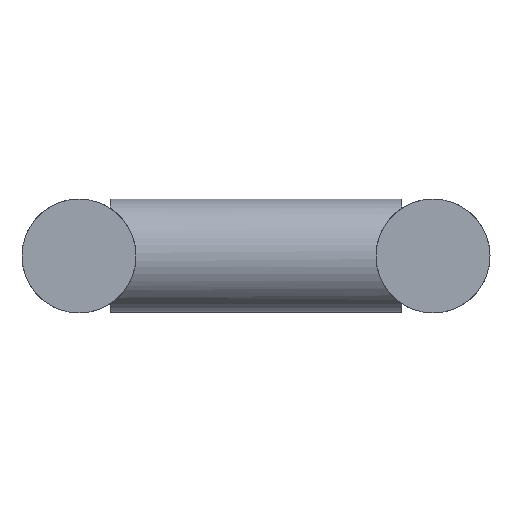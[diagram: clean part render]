
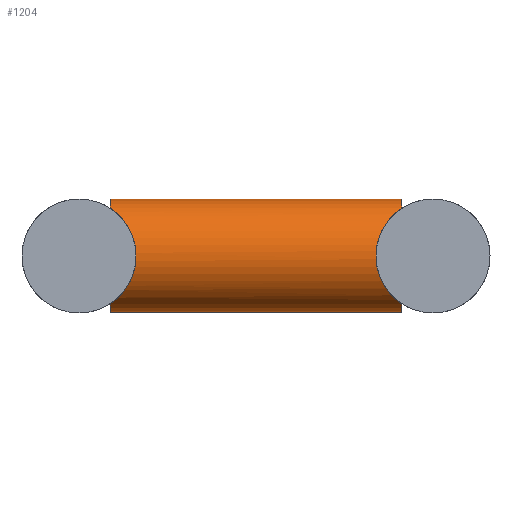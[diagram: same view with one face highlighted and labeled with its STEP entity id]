
A CAD part, left-side view. The second image highlights one B-rep face of the part: STEP entity #1204.
In plain terms, the highlighted cylindrical face has radius 24.15 mm (diameter 48.3 mm), a full revolution.
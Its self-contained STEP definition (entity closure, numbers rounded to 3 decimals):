
#39=FACE_BOUND('',#257,.T.);
#110=ELLIPSE('',#1323,34.153,24.15);
#111=ELLIPSE('',#1324,34.153,24.15);
#112=ELLIPSE('',#1325,34.153,24.15);
#113=ELLIPSE('',#1326,34.153,24.15);
#135=CYLINDRICAL_SURFACE('',#1322,24.15);
#179=FACE_OUTER_BOUND('',#256,.T.);
#256=EDGE_LOOP('',(#838,#839,#840,#841));
#257=EDGE_LOOP('',(#842,#843,#844,#845));
#370=CIRCLE('',#1315,24.15);
#371=CIRCLE('',#1317,24.15);
#372=CIRCLE('',#1319,24.15);
#373=CIRCLE('',#1321,24.15);
#526=VERTEX_POINT('',#1922);
#527=VERTEX_POINT('',#1923);
#528=VERTEX_POINT('',#1927);
#529=VERTEX_POINT('',#1928);
#530=VERTEX_POINT('',#1932);
#531=VERTEX_POINT('',#1933);
#532=VERTEX_POINT('',#1937);
#533=VERTEX_POINT('',#1938);
#659=EDGE_CURVE('',#526,#527,#370,.T.);
#661=EDGE_CURVE('',#528,#529,#371,.T.);
#663=EDGE_CURVE('',#530,#531,#372,.T.);
#665=EDGE_CURVE('',#532,#533,#373,.T.);
#666=EDGE_CURVE('',#529,#526,#110,.T.);
#667=EDGE_CURVE('',#527,#528,#111,.T.);
#668=EDGE_CURVE('',#533,#530,#112,.T.);
#669=EDGE_CURVE('',#531,#532,#113,.T.);
#838=ORIENTED_EDGE('',*,*,#666,.F.);
#839=ORIENTED_EDGE('',*,*,#661,.F.);
#840=ORIENTED_EDGE('',*,*,#667,.F.);
#841=ORIENTED_EDGE('',*,*,#659,.F.);
#842=ORIENTED_EDGE('',*,*,#668,.F.);
#843=ORIENTED_EDGE('',*,*,#665,.F.);
#844=ORIENTED_EDGE('',*,*,#669,.F.);
#845=ORIENTED_EDGE('',*,*,#663,.F.);
#1204=ADVANCED_FACE('',(#179,#39),#135,.T.);
#1315=AXIS2_PLACEMENT_3D('',#1925,#1572,#1573);
#1317=AXIS2_PLACEMENT_3D('',#1930,#1577,#1578);
#1319=AXIS2_PLACEMENT_3D('',#1935,#1582,#1583);
#1321=AXIS2_PLACEMENT_3D('',#1940,#1587,#1588);
#1322=AXIS2_PLACEMENT_3D('',#1941,#1589,#1590);
#1323=AXIS2_PLACEMENT_3D('',#1942,#1591,#1592);
#1324=AXIS2_PLACEMENT_3D('',#1943,#1593,#1594);
#1325=AXIS2_PLACEMENT_3D('',#1944,#1595,#1596);
#1326=AXIS2_PLACEMENT_3D('',#1945,#1597,#1598);
#1572=DIRECTION('center_axis',(0.,1.,0.));
#1573=DIRECTION('ref_axis',(1.,0.,0.));
#1577=DIRECTION('center_axis',(0.,1.,0.));
#1578=DIRECTION('ref_axis',(1.,0.,0.));
#1582=DIRECTION('center_axis',(0.,-1.,0.));
#1583=DIRECTION('ref_axis',(1.,0.,0.));
#1587=DIRECTION('center_axis',(0.,-1.,0.));
#1588=DIRECTION('ref_axis',(1.,0.,0.));
#1589=DIRECTION('center_axis',(0.,-1.,0.));
#1590=DIRECTION('ref_axis',(1.,0.,0.));
#1591=DIRECTION('center_axis',(-0.707,0.707,0.));
#1592=DIRECTION('ref_axis',(0.707,0.707,0.));
#1593=DIRECTION('center_axis',(0.707,0.707,0.));
#1594=DIRECTION('ref_axis',(0.707,-0.707,0.));
#1595=DIRECTION('center_axis',(0.707,-0.707,0.));
#1596=DIRECTION('ref_axis',(0.707,0.707,0.));
#1597=DIRECTION('center_axis',(-0.707,-0.707,0.));
#1598=DIRECTION('ref_axis',(0.707,-0.707,0.));
#1922=CARTESIAN_POINT('',(63.,61.85,20.256));
#1923=CARTESIAN_POINT('',(89.3,61.85,20.256));
#1925=CARTESIAN_POINT('Origin',(76.15,61.85,0.));
#1927=CARTESIAN_POINT('',(89.3,61.85,-20.256));
#1928=CARTESIAN_POINT('',(63.,61.85,-20.256));
#1930=CARTESIAN_POINT('Origin',(76.15,61.85,0.));
#1932=CARTESIAN_POINT('',(89.3,-61.85,20.256));
#1933=CARTESIAN_POINT('',(63.,-61.85,20.256));
#1935=CARTESIAN_POINT('Origin',(76.15,-61.85,0.));
#1937=CARTESIAN_POINT('',(63.,-61.85,-20.256));
#1938=CARTESIAN_POINT('',(89.3,-61.85,-20.256));
#1940=CARTESIAN_POINT('Origin',(76.15,-61.85,0.));
#1941=CARTESIAN_POINT('Origin',(76.15,61.85,0.));
#1942=CARTESIAN_POINT('Origin',(76.15,75.,0.));
#1943=CARTESIAN_POINT('Origin',(76.15,75.,0.));
#1944=CARTESIAN_POINT('Origin',(76.15,-75.,0.));
#1945=CARTESIAN_POINT('Origin',(76.15,-75.,0.));
